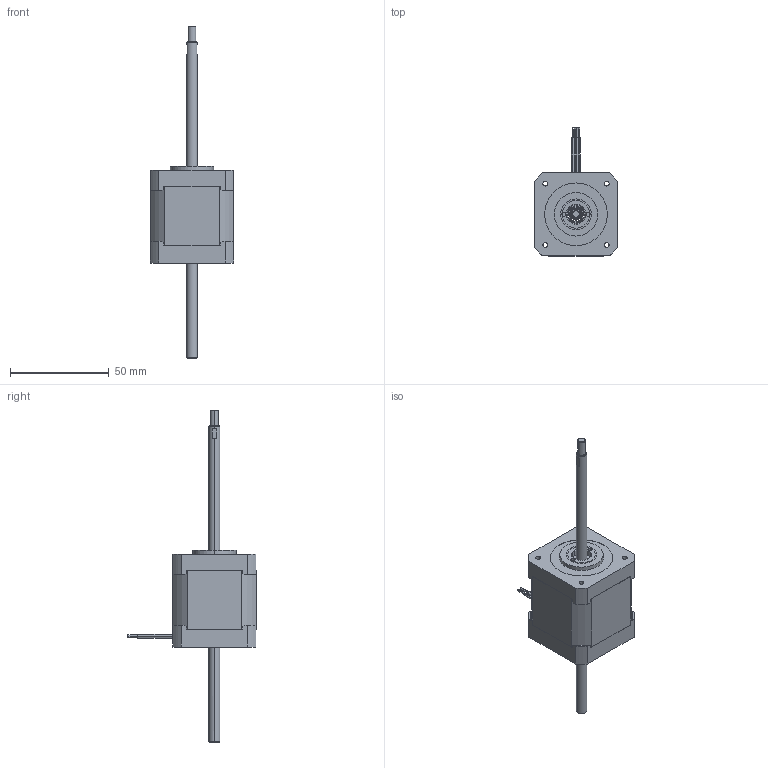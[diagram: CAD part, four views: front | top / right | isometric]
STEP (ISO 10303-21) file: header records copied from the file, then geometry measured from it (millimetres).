
FILE_DESCRIPTION (( 'STEP AP203' ), '1' );
FILE_NAME ('42Ë«µþºñ¹áÍ¨.STEP', '2014-09-12T05:32:36', ( 'user' ), ( 'pxctfys' ), 'SwSTEP 2.0', 'SolidWorks 2012', '' );
FILE_SCHEMA (( 'CONFIG_CONTROL_DESIGN' ));
Length unit declared in the file: millimetre
Products named in the file (1): 42邧詁綠嫗籵
Bounding box: 42.16 x 64.88 x 168 mm (x, y, z)
Surface area: 18126.6 mm2 (no closed solid volume)
Topology: 0 solids, 15 shells, 172 faces, 1243 edges, 1094 vertices
Faces by surface type: cylinder 74, plane 64, cone 26, torus 8
Entity records: 12362 total; most frequent: CARTESIAN_POINT 2558, DIRECTION 2305, ORIENTED_EDGE 1616, EDGE_CURVE 1243, VERTEX_POINT 1094, AXIS2_PLACEMENT_3D 905, CIRCLE 732, LINE 495
